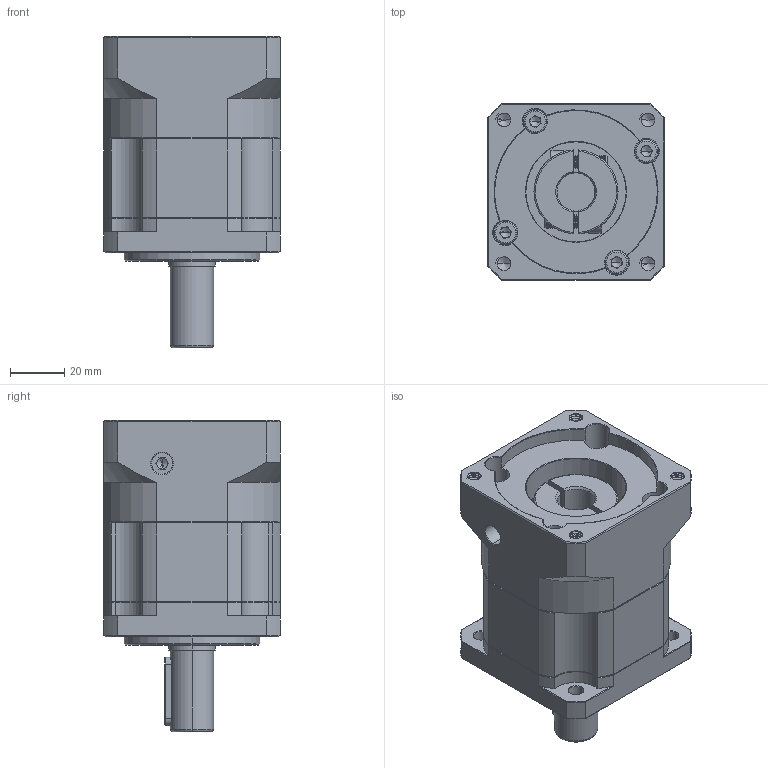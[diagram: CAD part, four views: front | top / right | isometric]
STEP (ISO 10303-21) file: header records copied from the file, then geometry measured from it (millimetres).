
FILE_DESCRIPTION (( 'STEP AP214' ), '1' );
FILE_NAME ('ZB60-D16-L1-14-60-75-M6.STEP', '2022-04-17T07:40:08', ( '' ), ( 'Microsoft' ), 'SwSTEP 2.0', 'SolidWorks 2016', '' );
FILE_SCHEMA (( 'AUTOMOTIVE_DESIGN' ));
Length unit declared in the file: millimetre
Products named in the file (1): ZB60-D16-L1-14-60-75-M6
Bounding box: 65 x 65 x 115 mm (x, y, z)
Volume: 265631.2 mm3; surface area: 55121.2 mm2
Topology: 6 solids, 6 shells, 1890 faces, 5024 edges, 3213 vertices
Faces by surface type: plane 879, cylinder 392, bspline 299, cone 286, torus 34
Entity records: 101693 total; most frequent: CARTESIAN_POINT 36302, ORIENTED_EDGE 9988, DIRECTION 8203, EDGE_CURVE 4994, VERTEX_POINT 3213, VECTOR 3047, LINE 3047, AXIS2_PLACEMENT_3D 2578
